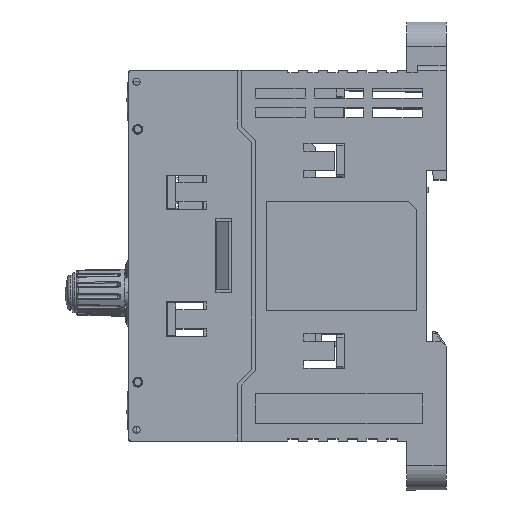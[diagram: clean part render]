
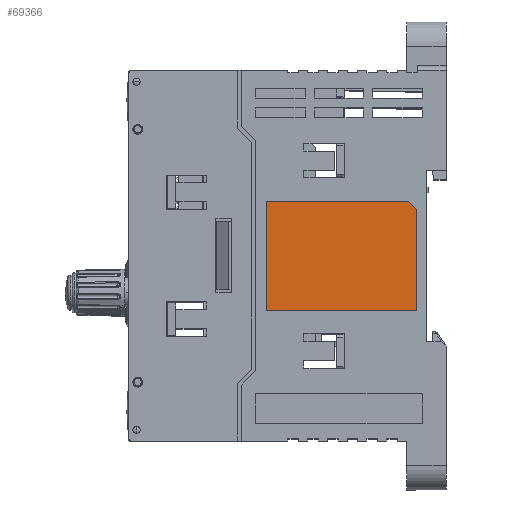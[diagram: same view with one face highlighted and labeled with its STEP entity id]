
A CAD part, top view. The second image highlights one B-rep face of the part: STEP entity #69366.
In plain terms, the highlighted planar face has unit normal (0, 0, 1).
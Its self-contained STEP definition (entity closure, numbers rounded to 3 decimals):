
#5819 = EDGE_CURVE ( 'NONE', #168222, #34808, #93984, .T. ) ;
#12367 = EDGE_CURVE ( 'NONE', #185880, #225810, #119610, .T. ) ;
#13987 = LINE ( 'NONE', #120725, #225354 ) ;
#14388 = VECTOR ( 'NONE', #205583, 1000. ) ;
#15600 = DIRECTION ( 'NONE',  ( -1., 0., 0. ) ) ;
#17125 = DIRECTION ( 'NONE',  ( 1., 0., 0. ) ) ;
#26826 = CARTESIAN_POINT ( 'NONE',  ( -45.562, 23.474, 29.954 ) ) ;
#34808 = VERTEX_POINT ( 'NONE', #84981 ) ;
#47369 = ORIENTED_EDGE ( 'NONE', *, *, #183130, .T. ) ;
#69366 = ADVANCED_FACE ( 'NONE', ( #90221 ), #229536, .T. ) ;
#71654 = CARTESIAN_POINT ( 'NONE',  ( -60.962, 23.474, 29.954 ) ) ;
#78469 = AXIS2_PLACEMENT_3D ( 'NONE', #71654, #86807, #17125 ) ;
#84981 = CARTESIAN_POINT ( 'NONE',  ( -76.362, 34.624, 29.954 ) ) ;
#85292 = CARTESIAN_POINT ( 'NONE',  ( -68.662, 12.324, 29.954 ) ) ;
#85953 = DIRECTION ( 'NONE',  ( 1., 0., 0. ) ) ;
#86807 = DIRECTION ( 'NONE',  ( 0., 0., 1. ) ) ;
#87114 = CARTESIAN_POINT ( 'NONE',  ( -76.362, 12.324, 29.954 ) ) ;
#89928 = ORIENTED_EDGE ( 'NONE', *, *, #12367, .F. ) ;
#90221 = FACE_OUTER_BOUND ( 'NONE', #136471, .T. ) ;
#93984 = LINE ( 'NONE', #168198, #190476 ) ;
#98991 = VECTOR ( 'NONE', #15600, 1000. ) ;
#105201 = ORIENTED_EDGE ( 'NONE', *, *, #5819, .F. ) ;
#110280 = ORIENTED_EDGE ( 'NONE', *, *, #129480, .F. ) ;
#119610 = LINE ( 'NONE', #26826, #14388 ) ;
#120725 = CARTESIAN_POINT ( 'NONE',  ( -53.262, 34.624, 29.954 ) ) ;
#129480 = EDGE_CURVE ( 'NONE', #225810, #168222, #214052, .T. ) ;
#136471 = EDGE_LOOP ( 'NONE', ( #47369, #139086, #105201, #110280, #89928 ) ) ;
#139086 = ORIENTED_EDGE ( 'NONE', *, *, #150514, .F. ) ;
#142955 = DIRECTION ( 'NONE',  ( -0.707, 0.707, 0. ) ) ;
#144095 = LINE ( 'NONE', #213812, #221556 ) ;
#144867 = CARTESIAN_POINT ( 'NONE',  ( -47.262, 34.624, 29.954 ) ) ;
#146556 = VERTEX_POINT ( 'NONE', #144867 ) ;
#150514 = EDGE_CURVE ( 'NONE', #34808, #146556, #13987, .T. ) ;
#168198 = CARTESIAN_POINT ( 'NONE',  ( -76.362, 23.474, 29.954 ) ) ;
#168222 = VERTEX_POINT ( 'NONE', #87114 ) ;
#179315 = CARTESIAN_POINT ( 'NONE',  ( -45.562, 32.924, 29.954 ) ) ;
#183130 = EDGE_CURVE ( 'NONE', #185880, #146556, #144095, .T. ) ;
#184472 = DIRECTION ( 'NONE',  ( 0., 1., 0. ) ) ;
#185880 = VERTEX_POINT ( 'NONE', #179315 ) ;
#190476 = VECTOR ( 'NONE', #184472, 1000. ) ;
#203405 = CARTESIAN_POINT ( 'NONE',  ( -45.562, 12.324, 29.954 ) ) ;
#205583 = DIRECTION ( 'NONE',  ( 0., -1., 0. ) ) ;
#213812 = CARTESIAN_POINT ( 'NONE',  ( -47.474, 34.837, 29.954 ) ) ;
#214052 = LINE ( 'NONE', #85292, #98991 ) ;
#221556 = VECTOR ( 'NONE', #142955, 1000. ) ;
#225354 = VECTOR ( 'NONE', #85953, 1000. ) ;
#225810 = VERTEX_POINT ( 'NONE', #203405 ) ;
#229536 = PLANE ( 'NONE',  #78469 ) ;
